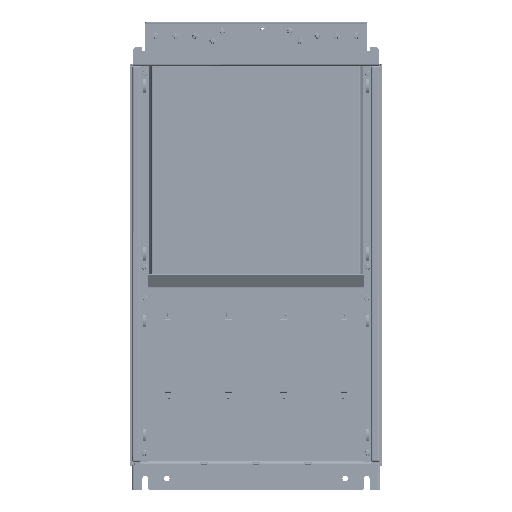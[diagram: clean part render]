
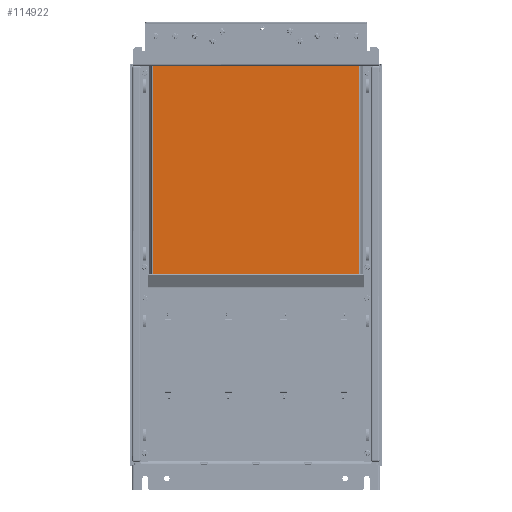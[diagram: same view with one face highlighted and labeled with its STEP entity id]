
A CAD part, front view. The second image highlights one B-rep face of the part: STEP entity #114922.
In plain terms, the highlighted planar face has unit normal (0, -1, 0).
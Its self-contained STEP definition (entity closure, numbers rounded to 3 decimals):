
#15284 = VECTOR ( 'NONE', #28398, 1000. ) ;
#28398 = DIRECTION ( 'NONE',  ( 0., 0., 1. ) ) ;
#36160 = CARTESIAN_POINT ( 'NONE',  ( 154.059, 0.05, -15. ) ) ;
#40747 = EDGE_CURVE ( 'NONE', #113595, #112557, #158656, .T. ) ;
#42717 = EDGE_CURVE ( 'NONE', #102976, #112557, #267437, .T. ) ;
#43124 = EDGE_CURVE ( 'NONE', #154941, #102976, #174209, .T. ) ;
#56646 = DIRECTION ( 'NONE',  ( 0., 0., -1. ) ) ;
#61592 = VECTOR ( 'NONE', #80664, 1000. ) ;
#75554 = ORIENTED_EDGE ( 'NONE', *, *, #40747, .F. ) ;
#80016 = FACE_OUTER_BOUND ( 'NONE', #105442, .T. ) ;
#80664 = DIRECTION ( 'NONE',  ( 0., 0., 1. ) ) ;
#87476 = AXIS2_PLACEMENT_3D ( 'NONE', #139153, #180503, #56646 ) ;
#95513 = ORIENTED_EDGE ( 'NONE', *, *, #42717, .T. ) ;
#102976 = VERTEX_POINT ( 'NONE', #134564 ) ;
#105442 = EDGE_LOOP ( 'NONE', ( #228974, #95513, #75554, #234614 ) ) ;
#109260 = CARTESIAN_POINT ( 'NONE',  ( -155.517, 0.05, -15. ) ) ;
#112557 = VERTEX_POINT ( 'NONE', #213825 ) ;
#113595 = VERTEX_POINT ( 'NONE', #240969 ) ;
#114922 = ADVANCED_FACE ( 'NONE', ( #80016 ), #262168, .T. ) ;
#132015 = CARTESIAN_POINT ( 'NONE',  ( 154.059, 0.05, -15. ) ) ;
#134564 = CARTESIAN_POINT ( 'NONE',  ( 154.059, 0.05, 295. ) ) ;
#139153 = CARTESIAN_POINT ( 'NONE',  ( -155.517, 0.05, -15. ) ) ;
#142213 = CARTESIAN_POINT ( 'NONE',  ( -154.059, 0.05, 295.555 ) ) ;
#142991 = CARTESIAN_POINT ( 'NONE',  ( -154.911, 0.05, 295. ) ) ;
#154941 = VERTEX_POINT ( 'NONE', #36160 ) ;
#158656 = LINE ( 'NONE', #142213, #61592 ) ;
#163646 = DIRECTION ( 'NONE',  ( -1., 0., 0. ) ) ;
#174209 = LINE ( 'NONE', #132015, #15284 ) ;
#180503 = DIRECTION ( 'NONE',  ( 0., -1., 0. ) ) ;
#197527 = LINE ( 'NONE', #109260, #252086 ) ;
#213825 = CARTESIAN_POINT ( 'NONE',  ( -154.059, 0.05, 295. ) ) ;
#228974 = ORIENTED_EDGE ( 'NONE', *, *, #43124, .T. ) ;
#232161 = VECTOR ( 'NONE', #163646, 1000. ) ;
#232435 = DIRECTION ( 'NONE',  ( 1., 0., 0. ) ) ;
#234614 = ORIENTED_EDGE ( 'NONE', *, *, #267040, .T. ) ;
#240969 = CARTESIAN_POINT ( 'NONE',  ( -154.059, 0.05, -15. ) ) ;
#252086 = VECTOR ( 'NONE', #232435, 1000. ) ;
#262168 = PLANE ( 'NONE',  #87476 ) ;
#267040 = EDGE_CURVE ( 'NONE', #113595, #154941, #197527, .T. ) ;
#267437 = LINE ( 'NONE', #142991, #232161 ) ;
